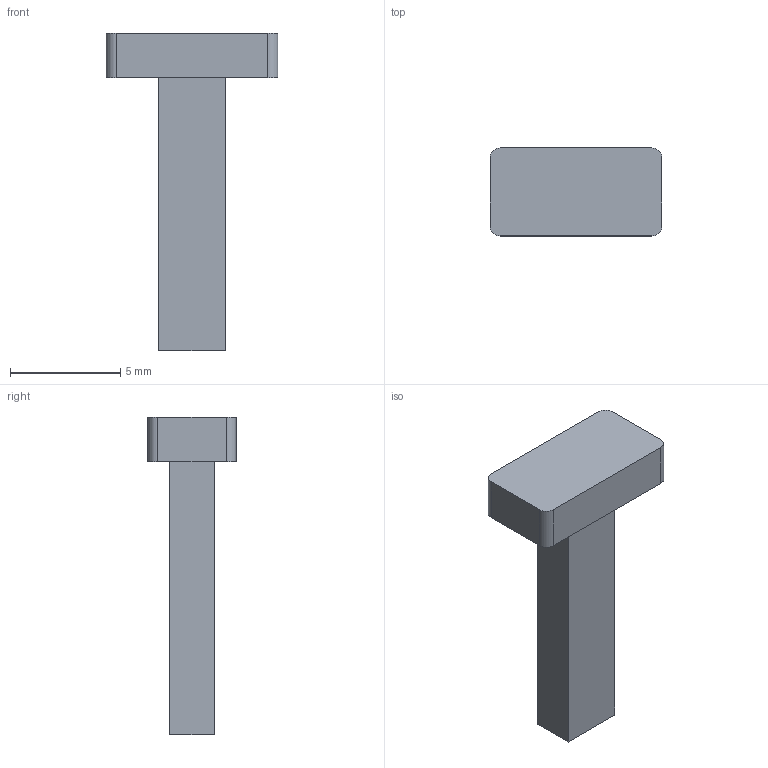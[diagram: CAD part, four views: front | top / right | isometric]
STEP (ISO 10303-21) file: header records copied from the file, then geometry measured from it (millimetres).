
FILE_DESCRIPTION(('Open CASCADE Model'),'2;1');
FILE_NAME('Open CASCADE Shape Model','2026-09-11T05:12:42',('Author'),( 'Open CASCADE'),'Open CASCADE STEP processor 7.9','Open CASCADE 7.9' ,'Unknown');
FILE_SCHEMA(('AUTOMOTIVE_DESIGN { 1 0 10303 214 1 1 1 1 }'));
Length unit declared in the file: millimetre
Products named in the file (1): Open CASCADE STEP translator 7.9 4
Bounding box: 7.8 x 4 x 14.4 mm (x, y, z)
Volume: 131.2 mm3; surface area: 245.8 mm2
Topology: 1 solids, 1 shells, 20 faces, 48 edges, 32 vertices
Faces by surface type: plane 16, cylinder 4
Entity records: 1210 total; most frequent: CARTESIAN_POINT 237, DIRECTION 174, LINE 112, VECTOR 112, ORIENTED_EDGE 96, PCURVE 96, DEFINITIONAL_REPRESENTATION 96, EDGE_CURVE 48
